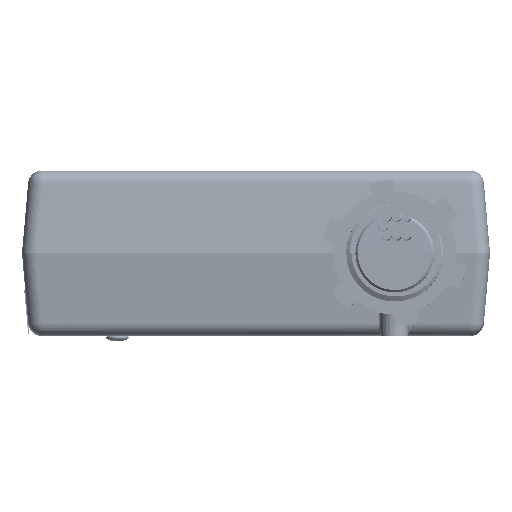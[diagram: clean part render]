
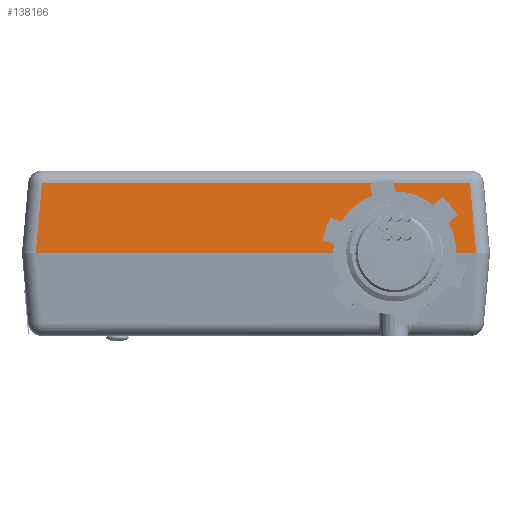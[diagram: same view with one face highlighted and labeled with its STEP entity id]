
A CAD part, top view. The second image highlights one B-rep face of the part: STEP entity #138166.
In plain terms, the highlighted planar face has unit normal (0, 0.087, 0.996).
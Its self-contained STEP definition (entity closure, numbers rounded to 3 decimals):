
#2326 = VERTEX_POINT ( 'NONE', #123534 ) ;
#10350 = CARTESIAN_POINT ( 'NONE',  ( 46.871, 8.463, 27.041 ) ) ;
#11715 = EDGE_CURVE ( 'NONE', #229743, #216703, #138025, .T. ) ;
#17164 = CARTESIAN_POINT ( 'NONE',  ( 47.611, 0., 27.781 ) ) ;
#22907 = CARTESIAN_POINT ( 'NONE',  ( 16.771, 7.746, 27.104 ) ) ;
#32224 = ORIENTED_EDGE ( 'NONE', *, *, #11715, .T. ) ;
#47035 = VECTOR ( 'NONE', #107112, 1000. ) ;
#48510 = DIRECTION ( 'NONE',  ( 1., 0., 0. ) ) ;
#60443 = CARTESIAN_POINT ( 'NONE',  ( -49.036, 15.136, 26.457 ) ) ;
#66525 = AXIS2_PLACEMENT_3D ( 'NONE', #221608, #268018, #129397 ) ;
#69368 = VERTEX_POINT ( 'NONE', #269270 ) ;
#81016 = ORIENTED_EDGE ( 'NONE', *, *, #165503, .T. ) ;
#92953 = CARTESIAN_POINT ( 'NONE',  ( 22.254, 13.219, 26.625 ) ) ;
#99968 = VECTOR ( 'NONE', #195732, 1000. ) ;
#107112 = DIRECTION ( 'NONE',  ( -1., 0., 0. ) ) ;
#108296 = CARTESIAN_POINT ( 'NONE',  ( 30., 13.219, 26.625 ) ) ;
#108841 = LINE ( 'NONE', #60443, #47035 ) ;
#110435 = FACE_OUTER_BOUND ( 'NONE', #242668, .T. ) ;
#114578 = LINE ( 'NONE', #10350, #99968 ) ;
#117725 =( BOUNDED_CURVE ( )  B_SPLINE_CURVE ( 3, ( #108296, #245950, #178157, #201344 ),
 .UNSPECIFIED., .F., .T. ) 
 B_SPLINE_CURVE_WITH_KNOTS ( ( 4, 4 ),
 ( 0., 1.569 ),
 .UNSPECIFIED. ) 
 CURVE ( )  GEOMETRIC_REPRESENTATION_ITEM ( )  RATIONAL_B_SPLINE_CURVE ( ( 1., 0.805, 0.805, 1. ) ) 
 REPRESENTATION_ITEM ( '' )  );
#123534 = CARTESIAN_POINT ( 'NONE',  ( 46.287, 15.136, 26.457 ) ) ;
#128680 = CARTESIAN_POINT ( 'NONE',  ( -47.634, -0.258, 27.804 ) ) ;
#129397 = DIRECTION ( 'NONE',  ( 0., -0.996, 0.087 ) ) ;
#132617 = DIRECTION ( 'NONE',  ( -0.087, -0.992, 0.087 ) ) ;
#136257 = CARTESIAN_POINT ( 'NONE',  ( 43.243, 0., 27.781 ) ) ;
#136466 = CARTESIAN_POINT ( 'NONE',  ( -46.287, 15.136, 26.457 ) ) ;
#138025 = LINE ( 'NONE', #128680, #192234 ) ;
#138166 = ADVANCED_FACE ( 'NONE', ( #110435 ), #174969, .T. ) ;
#138562 = CARTESIAN_POINT ( 'NONE',  ( 16.757, 0., 27.781 ) ) ;
#156950 = ORIENTED_EDGE ( 'NONE', *, *, #176229, .T. ) ;
#160686 = EDGE_CURVE ( 'NONE', #216703, #69368, #241746, .T. ) ;
#164106 = CARTESIAN_POINT ( 'NONE',  ( -50.6, 0., 27.781 ) ) ;
#165503 = EDGE_CURVE ( 'NONE', #176341, #262774, #117725, .T. ) ;
#174969 = PLANE ( 'NONE',  #66525 ) ;
#176229 = EDGE_CURVE ( 'NONE', #241680, #2326, #114578, .T. ) ;
#176341 = VERTEX_POINT ( 'NONE', #250330 ) ;
#178157 = CARTESIAN_POINT ( 'NONE',  ( 43.229, 7.746, 27.104 ) ) ;
#180218 = VECTOR ( 'NONE', #209428, 1000. ) ;
#182148 = ORIENTED_EDGE ( 'NONE', *, *, #249623, .T. ) ;
#182679 = CARTESIAN_POINT ( 'NONE',  ( -47.611, 0., 27.781 ) ) ;
#183662 = ORIENTED_EDGE ( 'NONE', *, *, #260166, .T. ) ;
#192234 = VECTOR ( 'NONE', #132617, 1000. ) ;
#195732 = DIRECTION ( 'NONE',  ( -0.087, 0.992, -0.087 ) ) ;
#201344 = CARTESIAN_POINT ( 'NONE',  ( 43.243, 0., 27.781 ) ) ;
#209428 = DIRECTION ( 'NONE',  ( 1., 0., 0. ) ) ;
#216703 = VERTEX_POINT ( 'NONE', #182679 ) ;
#221608 = CARTESIAN_POINT ( 'NONE',  ( -50.6, 0., 27.781 ) ) ;
#226253 = VECTOR ( 'NONE', #48510, 1000. ) ;
#229743 = VERTEX_POINT ( 'NONE', #136466 ) ;
#233543 = LINE ( 'NONE', #164106, #226253 ) ;
#241680 = VERTEX_POINT ( 'NONE', #17164 ) ;
#241746 = LINE ( 'NONE', #300396, #180218 ) ;
#242668 = EDGE_LOOP ( 'NONE', ( #256305, #183662, #81016, #290152, #156950, #182148, #32224 ) ) ;
#245950 = CARTESIAN_POINT ( 'NONE',  ( 37.746, 13.219, 26.625 ) ) ;
#249623 = EDGE_CURVE ( 'NONE', #2326, #229743, #108841, .T. ) ;
#250330 = CARTESIAN_POINT ( 'NONE',  ( 30., 13.219, 26.625 ) ) ;
#254860 = CARTESIAN_POINT ( 'NONE',  ( 30., 13.219, 26.625 ) ) ;
#256305 = ORIENTED_EDGE ( 'NONE', *, *, #160686, .T. ) ;
#257216 =( BOUNDED_CURVE ( )  B_SPLINE_CURVE ( 3, ( #138562, #22907, #92953, #254860 ),
 .UNSPECIFIED., .F., .T. ) 
 B_SPLINE_CURVE_WITH_KNOTS ( ( 4, 4 ),
 ( 4.714, 6.283 ),
 .UNSPECIFIED. ) 
 CURVE ( )  GEOMETRIC_REPRESENTATION_ITEM ( )  RATIONAL_B_SPLINE_CURVE ( ( 1., 0.805, 0.805, 1. ) ) 
 REPRESENTATION_ITEM ( '' )  );
#260166 = EDGE_CURVE ( 'NONE', #69368, #176341, #257216, .T. ) ;
#261201 = EDGE_CURVE ( 'NONE', #262774, #241680, #233543, .T. ) ;
#262774 = VERTEX_POINT ( 'NONE', #136257 ) ;
#268018 = DIRECTION ( 'NONE',  ( 0., 0.087, 0.996 ) ) ;
#269270 = CARTESIAN_POINT ( 'NONE',  ( 16.757, 0., 27.781 ) ) ;
#290152 = ORIENTED_EDGE ( 'NONE', *, *, #261201, .T. ) ;
#300396 = CARTESIAN_POINT ( 'NONE',  ( -50.6, 0., 27.781 ) ) ;
